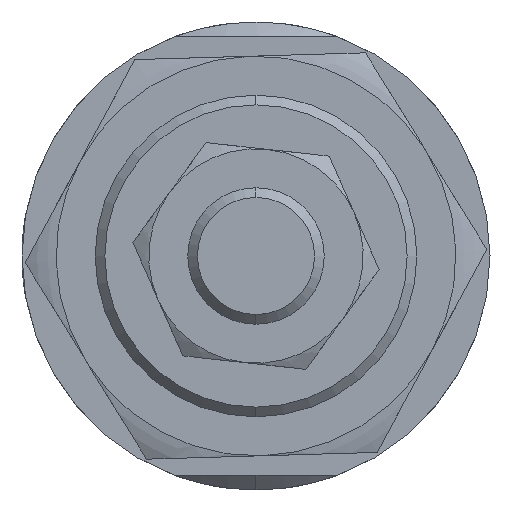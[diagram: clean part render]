
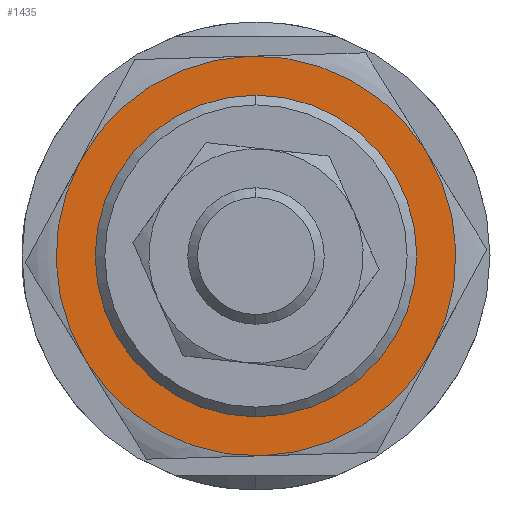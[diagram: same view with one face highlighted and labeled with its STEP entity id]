
A CAD part, left-side view. The second image highlights one B-rep face of the part: STEP entity #1435.
In plain terms, the highlighted planar face has unit normal (-1, 0, 0) as drawn and (0, 0, -1) by its records, which use the part's own axes.
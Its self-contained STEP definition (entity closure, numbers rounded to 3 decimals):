
#210 = CARTESIAN_POINT ( 'NONE',  ( -15.5, 0., -5.5 ) ) ;
#256 = DIRECTION ( 'NONE',  ( 1., 0., 0. ) ) ;
#361 = DIRECTION ( 'NONE',  ( 1., 0., 0. ) ) ;
#422 = DIRECTION ( 'NONE',  ( 0., 0., 1. ) ) ;
#426 = ORIENTED_EDGE ( 'NONE', *, *, #4714, .F. ) ;
#450 = AXIS2_PLACEMENT_3D ( 'NONE', #4610, #422, #256 ) ;
#504 = DIRECTION ( 'NONE',  ( 1., 0., 0. ) ) ;
#511 = ORIENTED_EDGE ( 'NONE', *, *, #4270, .T. ) ;
#517 = FACE_OUTER_BOUND ( 'NONE', #4230, .T. ) ;
#652 = ORIENTED_EDGE ( 'NONE', *, *, #3429, .F. ) ;
#857 = AXIS2_PLACEMENT_3D ( 'NONE', #2539, #1712, #504 ) ;
#918 = EDGE_CURVE ( 'NONE', #3924, #3988, #1929, .T. ) ;
#944 = CARTESIAN_POINT ( 'NONE',  ( 0., 0., -5.5 ) ) ;
#971 = EDGE_CURVE ( 'NONE', #2380, #3832, #2024, .T. ) ;
#1065 = CIRCLE ( 'NONE', #857, 20.5 ) ;
#1095 = ORIENTED_EDGE ( 'NONE', *, *, #2893, .F. ) ;
#1100 = CARTESIAN_POINT ( 'NONE',  ( -20.5, 0., -5.5 ) ) ;
#1180 = DIRECTION ( 'NONE',  ( 0., 0., 1. ) ) ;
#1280 = CIRCLE ( 'NONE', #450, 20.5 ) ;
#1288 = AXIS2_PLACEMENT_3D ( 'NONE', #2757, #1180, #2067 ) ;
#1337 = FACE_BOUND ( 'NONE', #4147, .T. ) ;
#1349 = AXIS2_PLACEMENT_3D ( 'NONE', #4710, #2473, #4226 ) ;
#1388 = AXIS2_PLACEMENT_3D ( 'NONE', #4297, #2548, #2954 ) ;
#1421 = ORIENTED_EDGE ( 'NONE', *, *, #2125, .F. ) ;
#1427 = DIRECTION ( 'NONE',  ( 0., 0., 1. ) ) ;
#1435 = ADVANCED_FACE ( 'NONE', ( #1337, #517 ), #1862, .F. ) ;
#1501 = CIRCLE ( 'NONE', #2951, 20.5 ) ;
#1526 = VERTEX_POINT ( 'NONE', #4136 ) ;
#1600 = ORIENTED_EDGE ( 'NONE', *, *, #918, .F. ) ;
#1675 = CIRCLE ( 'NONE', #3033, 15.5 ) ;
#1712 = DIRECTION ( 'NONE',  ( 0., 0., 1. ) ) ;
#1741 = DIRECTION ( 'NONE',  ( 0., 0., 1. ) ) ;
#1850 = ORIENTED_EDGE ( 'NONE', *, *, #971, .T. ) ;
#1862 = PLANE ( 'NONE',  #1349 ) ;
#1869 = CARTESIAN_POINT ( 'NONE',  ( 10.25, 17.754, -5.5 ) ) ;
#1898 = CARTESIAN_POINT ( 'NONE',  ( 15.5, 0., -5.5 ) ) ;
#1926 = CARTESIAN_POINT ( 'NONE',  ( 0., 0., -5.5 ) ) ;
#1929 = CIRCLE ( 'NONE', #3551, 20.5 ) ;
#2024 = CIRCLE ( 'NONE', #4222, 15.5 ) ;
#2067 = DIRECTION ( 'NONE',  ( 1., 0., 0. ) ) ;
#2125 = EDGE_CURVE ( 'NONE', #2948, #3244, #1280, .T. ) ;
#2225 = CIRCLE ( 'NONE', #1388, 20.5 ) ;
#2226 = DIRECTION ( 'NONE',  ( 0., 0., 1. ) ) ;
#2307 = DIRECTION ( 'NONE',  ( 1., 0., 0. ) ) ;
#2380 = VERTEX_POINT ( 'NONE', #210 ) ;
#2473 = DIRECTION ( 'NONE',  ( 0., 0., 1. ) ) ;
#2539 = CARTESIAN_POINT ( 'NONE',  ( 0., 0., -5.5 ) ) ;
#2548 = DIRECTION ( 'NONE',  ( 0., 0., 1. ) ) ;
#2651 = DIRECTION ( 'NONE',  ( 1., 0., 0. ) ) ;
#2724 = CARTESIAN_POINT ( 'NONE',  ( 0., 0., -5.5 ) ) ;
#2726 = EDGE_CURVE ( 'NONE', #3244, #3924, #2225, .T. ) ;
#2757 = CARTESIAN_POINT ( 'NONE',  ( 0., 0., -5.5 ) ) ;
#2893 = EDGE_CURVE ( 'NONE', #4465, #1526, #1501, .T. ) ;
#2900 = DIRECTION ( 'NONE',  ( 1., 0., 0. ) ) ;
#2916 = CARTESIAN_POINT ( 'NONE',  ( 10.25, -17.754, -5.5 ) ) ;
#2948 = VERTEX_POINT ( 'NONE', #1869 ) ;
#2951 = AXIS2_PLACEMENT_3D ( 'NONE', #944, #1427, #361 ) ;
#2954 = DIRECTION ( 'NONE',  ( 1., 0., 0. ) ) ;
#2998 = CIRCLE ( 'NONE', #1288, 20.5 ) ;
#3033 = AXIS2_PLACEMENT_3D ( 'NONE', #1926, #2226, #2307 ) ;
#3244 = VERTEX_POINT ( 'NONE', #3749 ) ;
#3429 = EDGE_CURVE ( 'NONE', #3988, #4465, #1065, .T. ) ;
#3551 = AXIS2_PLACEMENT_3D ( 'NONE', #3660, #1741, #2651 ) ;
#3660 = CARTESIAN_POINT ( 'NONE',  ( 0., 0., -5.5 ) ) ;
#3749 = CARTESIAN_POINT ( 'NONE',  ( -10.25, 17.754, -5.5 ) ) ;
#3784 = ORIENTED_EDGE ( 'NONE', *, *, #2726, .F. ) ;
#3832 = VERTEX_POINT ( 'NONE', #1898 ) ;
#3924 = VERTEX_POINT ( 'NONE', #1100 ) ;
#3988 = VERTEX_POINT ( 'NONE', #4263 ) ;
#4136 = CARTESIAN_POINT ( 'NONE',  ( 20.5, 0., -5.5 ) ) ;
#4147 = EDGE_LOOP ( 'NONE', ( #511, #1850 ) ) ;
#4222 = AXIS2_PLACEMENT_3D ( 'NONE', #2724, #4332, #2900 ) ;
#4226 = DIRECTION ( 'NONE',  ( 1., 0., 0. ) ) ;
#4230 = EDGE_LOOP ( 'NONE', ( #426, #1095, #652, #1600, #3784, #1421 ) ) ;
#4263 = CARTESIAN_POINT ( 'NONE',  ( -10.25, -17.754, -5.5 ) ) ;
#4270 = EDGE_CURVE ( 'NONE', #3832, #2380, #1675, .T. ) ;
#4297 = CARTESIAN_POINT ( 'NONE',  ( 0., 0., -5.5 ) ) ;
#4332 = DIRECTION ( 'NONE',  ( 0., 0., 1. ) ) ;
#4465 = VERTEX_POINT ( 'NONE', #2916 ) ;
#4610 = CARTESIAN_POINT ( 'NONE',  ( 0., 0., -5.5 ) ) ;
#4710 = CARTESIAN_POINT ( 'NONE',  ( 0., 0., -5.5 ) ) ;
#4714 = EDGE_CURVE ( 'NONE', #1526, #2948, #2998, .T. ) ;
